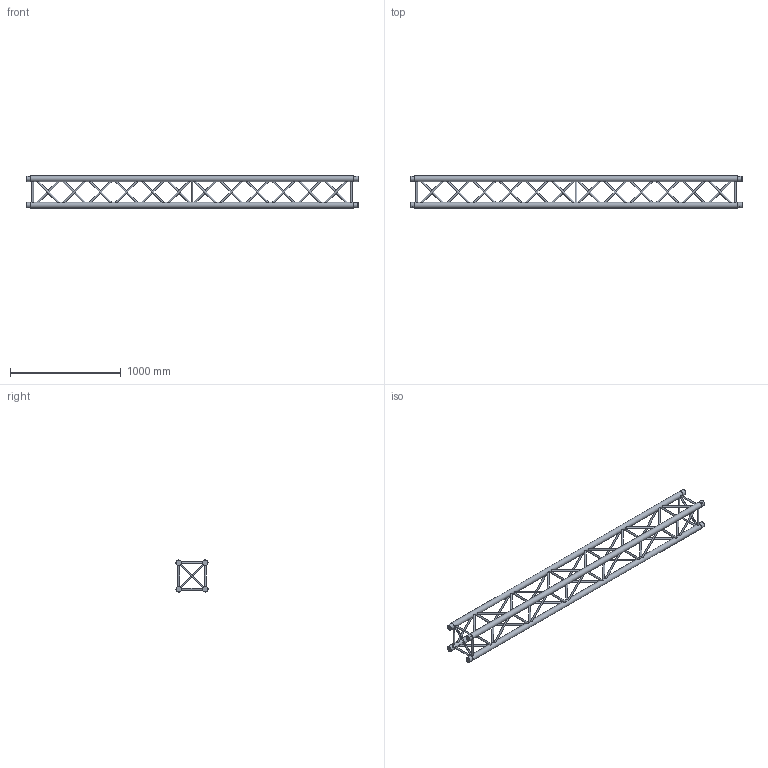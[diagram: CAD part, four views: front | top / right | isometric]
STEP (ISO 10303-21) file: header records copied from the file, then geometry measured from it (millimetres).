
FILE_DESCRIPTION(/* description */ (''),/* implementation_level */ '2;1');
FILE_NAME(/* name */ 'M:\Symbolen\STP\30-er truss\111080151.stp',/* time_stamp */ '2015-01-30T10:21:04+01:00',/* author */ ('Stephan'),/* organization */ (''),/* preprocessor_version */ 'ST-DEVELOPER v15.6',/* originating_system */ 'Autodesk Inventor 2015',/* authorisation */ '');
FILE_SCHEMA (('AUTOMOTIVE_DESIGN { 1 0 10303 214 3 1 1 }'));
Length unit declared in the file: millimetre
Products named in the file (1): 160023738
Bounding box: 3000 x 289.98 x 289.98 mm (x, y, z)
Volume: 27388907.5 mm3; surface area: 2775178.1 mm2
Topology: 63 solids, 63 shells, 354 faces, 574 edges, 340 vertices
Faces by surface type: plane 252, cylinder 94, cone 8
Full cylindrical faces by diameter (mm): 10 x8, 12 x3, 16 x59, 49.5 x8, 51 x4
Entity records: 9110 total; most frequent: CARTESIAN_POINT 1831, DIRECTION 1382, ORIENTED_EDGE 1168, AXIS2_PLACEMENT_3D 623, EDGE_LOOP 580, EDGE_CURVE 472, STYLED_ITEM 343, FACE_OUTER_BOUND 342
